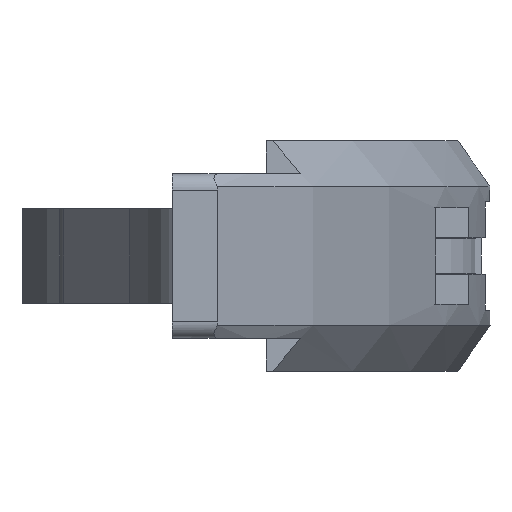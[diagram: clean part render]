
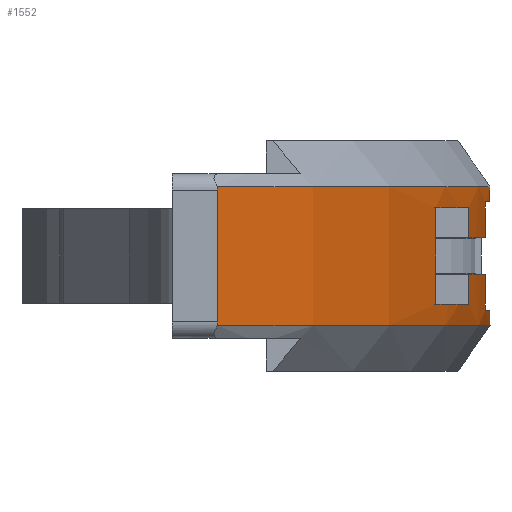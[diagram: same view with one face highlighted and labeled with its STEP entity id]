
A CAD part, left-side view. The second image highlights one B-rep face of the part: STEP entity #1552.
In plain terms, the highlighted cylindrical face has radius 50 mm (diameter 100 mm), a partial arc.
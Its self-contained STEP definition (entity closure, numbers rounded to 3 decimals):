
#31=FACE_BOUND('',#180,.T.);
#41=B_SPLINE_CURVE_WITH_KNOTS('',3,(#2396,#2397,#2398,#2399),
 .UNSPECIFIED.,.F.,.F.,(4,4),(0.469,0.483),
 .UNSPECIFIED.);
#42=B_SPLINE_CURVE_WITH_KNOTS('',3,(#2403,#2404,#2405,#2406),
 .UNSPECIFIED.,.F.,.F.,(4,4),(0.469,0.483),
 .UNSPECIFIED.);
#43=B_SPLINE_CURVE_WITH_KNOTS('',3,(#2410,#2411,#2412,#2413),
 .UNSPECIFIED.,.F.,.F.,(4,4),(0.483,0.498),
 .UNSPECIFIED.);
#44=B_SPLINE_CURVE_WITH_KNOTS('',3,(#2416,#2417,#2418,#2419),
 .UNSPECIFIED.,.F.,.F.,(4,4),(0.483,0.498),
 .UNSPECIFIED.);
#58=CYLINDRICAL_SURFACE('',#1707,50.);
#98=FACE_OUTER_BOUND('',#179,.T.);
#179=EDGE_LOOP('',(#1083,#1084,#1085,#1086,#1087,#1088,#1089,#1090));
#180=EDGE_LOOP('',(#1091,#1092,#1093,#1094,#1095,#1096,#1097,#1098,#1099,
#1100,#1101,#1102,#1103,#1104,#1105,#1106));
#258=CIRCLE('',#1693,50.);
#265=CIRCLE('',#1706,50.);
#266=CIRCLE('',#1708,50.);
#267=CIRCLE('',#1709,50.);
#268=CIRCLE('',#1710,50.);
#269=CIRCLE('',#1711,50.);
#270=CIRCLE('',#1712,50.);
#271=CIRCLE('',#1713,50.);
#272=CIRCLE('',#1714,50.);
#273=CIRCLE('',#1715,50.);
#338=LINE('',#2343,#485);
#344=LINE('',#2361,#491);
#350=LINE('',#2381,#497);
#355=LINE('',#2401,#502);
#356=LINE('',#2415,#503);
#357=LINE('',#2423,#504);
#358=LINE('',#2427,#505);
#359=LINE('',#2431,#506);
#360=LINE('',#2435,#507);
#361=LINE('',#2439,#508);
#485=VECTOR('',#1901,10.);
#491=VECTOR('',#1917,10.);
#497=VECTOR('',#1935,10.);
#502=VECTOR('',#1952,10.);
#503=VECTOR('',#1955,10.);
#504=VECTOR('',#1958,10.);
#505=VECTOR('',#1961,10.);
#506=VECTOR('',#1964,10.);
#507=VECTOR('',#1967,10.);
#508=VECTOR('',#1970,10.);
#630=VERTEX_POINT('',#2341);
#631=VERTEX_POINT('',#2342);
#634=VERTEX_POINT('',#2350);
#638=VERTEX_POINT('',#2360);
#645=VERTEX_POINT('',#2379);
#646=VERTEX_POINT('',#2380);
#648=VERTEX_POINT('',#2392);
#649=VERTEX_POINT('',#2393);
#650=VERTEX_POINT('',#2395);
#651=VERTEX_POINT('',#2400);
#652=VERTEX_POINT('',#2402);
#653=VERTEX_POINT('',#2407);
#654=VERTEX_POINT('',#2409);
#655=VERTEX_POINT('',#2414);
#656=VERTEX_POINT('',#2420);
#657=VERTEX_POINT('',#2422);
#658=VERTEX_POINT('',#2424);
#659=VERTEX_POINT('',#2426);
#660=VERTEX_POINT('',#2428);
#661=VERTEX_POINT('',#2430);
#662=VERTEX_POINT('',#2432);
#663=VERTEX_POINT('',#2434);
#664=VERTEX_POINT('',#2436);
#665=VERTEX_POINT('',#2438);
#792=EDGE_CURVE('',#630,#631,#338,.T.);
#796=EDGE_CURVE('',#631,#634,#258,.T.);
#801=EDGE_CURVE('',#634,#638,#344,.T.);
#810=EDGE_CURVE('',#645,#646,#350,.T.);
#815=EDGE_CURVE('',#646,#630,#265,.T.);
#817=EDGE_CURVE('',#648,#649,#266,.T.);
#818=EDGE_CURVE('',#649,#650,#41,.T.);
#819=EDGE_CURVE('',#651,#650,#355,.T.);
#820=EDGE_CURVE('',#652,#651,#42,.T.);
#821=EDGE_CURVE('',#652,#653,#267,.T.);
#822=EDGE_CURVE('',#654,#653,#43,.T.);
#823=EDGE_CURVE('',#655,#654,#356,.T.);
#824=EDGE_CURVE('',#655,#648,#44,.T.);
#825=EDGE_CURVE('',#638,#656,#268,.T.);
#826=EDGE_CURVE('',#656,#657,#357,.T.);
#827=EDGE_CURVE('',#657,#658,#269,.T.);
#828=EDGE_CURVE('',#658,#659,#358,.T.);
#829=EDGE_CURVE('',#659,#660,#270,.T.);
#830=EDGE_CURVE('',#660,#661,#359,.T.);
#831=EDGE_CURVE('',#661,#662,#271,.T.);
#832=EDGE_CURVE('',#662,#663,#360,.T.);
#833=EDGE_CURVE('',#663,#664,#272,.T.);
#834=EDGE_CURVE('',#664,#665,#361,.T.);
#835=EDGE_CURVE('',#665,#645,#273,.T.);
#1083=ORIENTED_EDGE('',*,*,#817,.T.);
#1084=ORIENTED_EDGE('',*,*,#818,.T.);
#1085=ORIENTED_EDGE('',*,*,#819,.F.);
#1086=ORIENTED_EDGE('',*,*,#820,.F.);
#1087=ORIENTED_EDGE('',*,*,#821,.T.);
#1088=ORIENTED_EDGE('',*,*,#822,.F.);
#1089=ORIENTED_EDGE('',*,*,#823,.F.);
#1090=ORIENTED_EDGE('',*,*,#824,.T.);
#1091=ORIENTED_EDGE('',*,*,#810,.T.);
#1092=ORIENTED_EDGE('',*,*,#815,.T.);
#1093=ORIENTED_EDGE('',*,*,#792,.T.);
#1094=ORIENTED_EDGE('',*,*,#796,.T.);
#1095=ORIENTED_EDGE('',*,*,#801,.T.);
#1096=ORIENTED_EDGE('',*,*,#825,.T.);
#1097=ORIENTED_EDGE('',*,*,#826,.T.);
#1098=ORIENTED_EDGE('',*,*,#827,.T.);
#1099=ORIENTED_EDGE('',*,*,#828,.T.);
#1100=ORIENTED_EDGE('',*,*,#829,.T.);
#1101=ORIENTED_EDGE('',*,*,#830,.T.);
#1102=ORIENTED_EDGE('',*,*,#831,.T.);
#1103=ORIENTED_EDGE('',*,*,#832,.T.);
#1104=ORIENTED_EDGE('',*,*,#833,.T.);
#1105=ORIENTED_EDGE('',*,*,#834,.T.);
#1106=ORIENTED_EDGE('',*,*,#835,.T.);
#1552=ADVANCED_FACE('',(#98,#31),#58,.T.);
#1693=AXIS2_PLACEMENT_3D('',#2351,#1907,#1908);
#1706=AXIS2_PLACEMENT_3D('',#2389,#1945,#1946);
#1707=AXIS2_PLACEMENT_3D('',#2391,#1948,#1949);
#1708=AXIS2_PLACEMENT_3D('',#2394,#1950,#1951);
#1709=AXIS2_PLACEMENT_3D('',#2408,#1953,#1954);
#1710=AXIS2_PLACEMENT_3D('',#2421,#1956,#1957);
#1711=AXIS2_PLACEMENT_3D('',#2425,#1959,#1960);
#1712=AXIS2_PLACEMENT_3D('',#2429,#1962,#1963);
#1713=AXIS2_PLACEMENT_3D('',#2433,#1965,#1966);
#1714=AXIS2_PLACEMENT_3D('',#2437,#1968,#1969);
#1715=AXIS2_PLACEMENT_3D('',#2440,#1971,#1972);
#1901=DIRECTION('',(0.,0.,1.));
#1907=DIRECTION('center_axis',(0.,0.,1.));
#1908=DIRECTION('ref_axis',(-0.64,-0.768,0.));
#1917=DIRECTION('',(0.,0.,-1.));
#1935=DIRECTION('',(0.,0.,-1.));
#1945=DIRECTION('center_axis',(0.,0.,-1.));
#1946=DIRECTION('ref_axis',(-0.64,-0.768,0.));
#1948=DIRECTION('center_axis',(0.,0.,1.));
#1949=DIRECTION('ref_axis',(-0.64,-0.768,0.));
#1950=DIRECTION('center_axis',(0.,0.,1.));
#1951=DIRECTION('ref_axis',(-0.64,-0.768,0.));
#1952=DIRECTION('',(0.,0.,-1.));
#1953=DIRECTION('center_axis',(0.,0.,-1.));
#1954=DIRECTION('ref_axis',(-0.64,-0.768,0.));
#1955=DIRECTION('',(0.,0.,1.));
#1956=DIRECTION('center_axis',(0.,0.,1.));
#1957=DIRECTION('ref_axis',(-0.64,-0.768,0.));
#1958=DIRECTION('',(0.,0.,1.));
#1959=DIRECTION('center_axis',(0.,0.,1.));
#1960=DIRECTION('ref_axis',(-0.64,-0.768,0.));
#1961=DIRECTION('',(0.,0.,-1.));
#1962=DIRECTION('center_axis',(0.,0.,1.));
#1963=DIRECTION('ref_axis',(-0.64,-0.768,0.));
#1964=DIRECTION('',(0.,0.,-1.));
#1965=DIRECTION('center_axis',(0.,0.,-1.));
#1966=DIRECTION('ref_axis',(-0.64,-0.768,0.));
#1967=DIRECTION('',(0.,0.,-1.));
#1968=DIRECTION('center_axis',(0.,0.,-1.));
#1969=DIRECTION('ref_axis',(-0.64,-0.768,0.));
#1970=DIRECTION('',(0.,0.,1.));
#1971=DIRECTION('center_axis',(0.,0.,-1.));
#1972=DIRECTION('ref_axis',(-0.64,-0.768,0.));
#2341=CARTESIAN_POINT('',(-15.,-11.197,-2.05));
#2342=CARTESIAN_POINT('',(-15.,-11.197,2.05));
#2343=CARTESIAN_POINT('',(-15.,-11.197,0.));
#2350=CARTESIAN_POINT('',(-9.5,-12.589,2.05));
#2351=CARTESIAN_POINT('Origin',(0.,36.5,2.05));
#2360=CARTESIAN_POINT('',(-9.5,-12.589,0.775));
#2361=CARTESIAN_POINT('',(-9.5,-12.589,0.));
#2379=CARTESIAN_POINT('',(-9.5,-12.589,-0.775));
#2380=CARTESIAN_POINT('',(-9.5,-12.589,-2.05));
#2381=CARTESIAN_POINT('',(-9.5,-12.589,0.));
#2389=CARTESIAN_POINT('Origin',(0.,36.5,-2.05));
#2391=CARTESIAN_POINT('Origin',(0.,36.5,0.));
#2392=CARTESIAN_POINT('',(-31.984,-1.932,-2.95));
#2393=CARTESIAN_POINT('',(31.984,-1.932,-2.95));
#2394=CARTESIAN_POINT('Origin',(0.,36.5,-2.95));
#2395=CARTESIAN_POINT('',(32.,-1.919,-2.8));
#2396=CARTESIAN_POINT('Ctrl Pts',(31.984,-1.932,-2.95));
#2397=CARTESIAN_POINT('Ctrl Pts',(31.995,-1.923,-2.9));
#2398=CARTESIAN_POINT('Ctrl Pts',(32.,-1.919,-2.85));
#2399=CARTESIAN_POINT('Ctrl Pts',(32.,-1.919,-2.8));
#2400=CARTESIAN_POINT('',(32.,-1.919,2.8));
#2401=CARTESIAN_POINT('',(32.,-1.919,0.));
#2402=CARTESIAN_POINT('',(31.984,-1.932,2.95));
#2403=CARTESIAN_POINT('Ctrl Pts',(31.984,-1.932,2.95));
#2404=CARTESIAN_POINT('Ctrl Pts',(31.995,-1.923,2.9));
#2405=CARTESIAN_POINT('Ctrl Pts',(32.,-1.919,2.85));
#2406=CARTESIAN_POINT('Ctrl Pts',(32.,-1.919,2.8));
#2407=CARTESIAN_POINT('',(-31.984,-1.932,2.95));
#2408=CARTESIAN_POINT('Origin',(0.,36.5,2.95));
#2409=CARTESIAN_POINT('',(-32.,-1.919,2.8));
#2410=CARTESIAN_POINT('Ctrl Pts',(-32.,-1.919,2.8));
#2411=CARTESIAN_POINT('Ctrl Pts',(-32.,-1.919,2.85));
#2412=CARTESIAN_POINT('Ctrl Pts',(-31.995,-1.923,2.9));
#2413=CARTESIAN_POINT('Ctrl Pts',(-31.984,-1.932,2.95));
#2414=CARTESIAN_POINT('',(-32.,-1.919,-2.8));
#2415=CARTESIAN_POINT('',(-32.,-1.919,0.));
#2416=CARTESIAN_POINT('Ctrl Pts',(-32.,-1.919,-2.8));
#2417=CARTESIAN_POINT('Ctrl Pts',(-32.,-1.919,-2.85));
#2418=CARTESIAN_POINT('Ctrl Pts',(-31.995,-1.923,-2.9));
#2419=CARTESIAN_POINT('Ctrl Pts',(-31.984,-1.932,-2.95));
#2420=CARTESIAN_POINT('',(-4.5,-13.297,0.775));
#2421=CARTESIAN_POINT('Origin',(0.,36.5,0.775));
#2422=CARTESIAN_POINT('',(-4.5,-13.297,2.3));
#2423=CARTESIAN_POINT('',(-4.5,-13.297,0.));
#2424=CARTESIAN_POINT('',(4.5,-13.297,2.3));
#2425=CARTESIAN_POINT('Origin',(0.,36.5,2.3));
#2426=CARTESIAN_POINT('',(4.5,-13.297,0.775));
#2427=CARTESIAN_POINT('',(4.5,-13.297,0.));
#2428=CARTESIAN_POINT('',(6.,-13.139,0.775));
#2429=CARTESIAN_POINT('Origin',(0.,36.5,0.775));
#2430=CARTESIAN_POINT('',(6.,-13.139,-0.775));
#2431=CARTESIAN_POINT('',(6.,-13.139,0.));
#2432=CARTESIAN_POINT('',(4.5,-13.297,-0.775));
#2433=CARTESIAN_POINT('Origin',(0.,36.5,-0.775));
#2434=CARTESIAN_POINT('',(4.5,-13.297,-2.3));
#2435=CARTESIAN_POINT('',(4.5,-13.297,0.));
#2436=CARTESIAN_POINT('',(-4.5,-13.297,-2.3));
#2437=CARTESIAN_POINT('Origin',(0.,36.5,-2.3));
#2438=CARTESIAN_POINT('',(-4.5,-13.297,-0.775));
#2439=CARTESIAN_POINT('',(-4.5,-13.297,0.));
#2440=CARTESIAN_POINT('Origin',(0.,36.5,-0.775));
